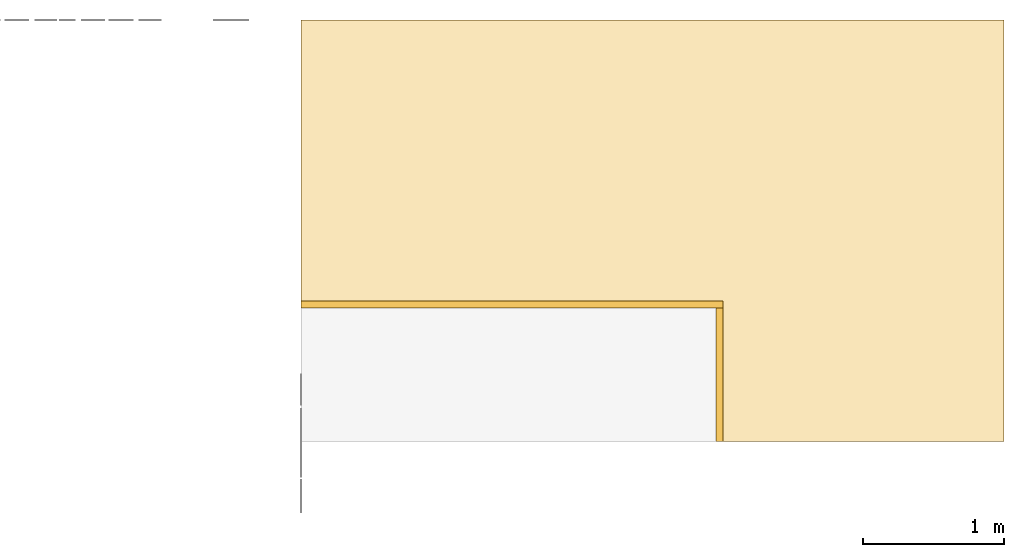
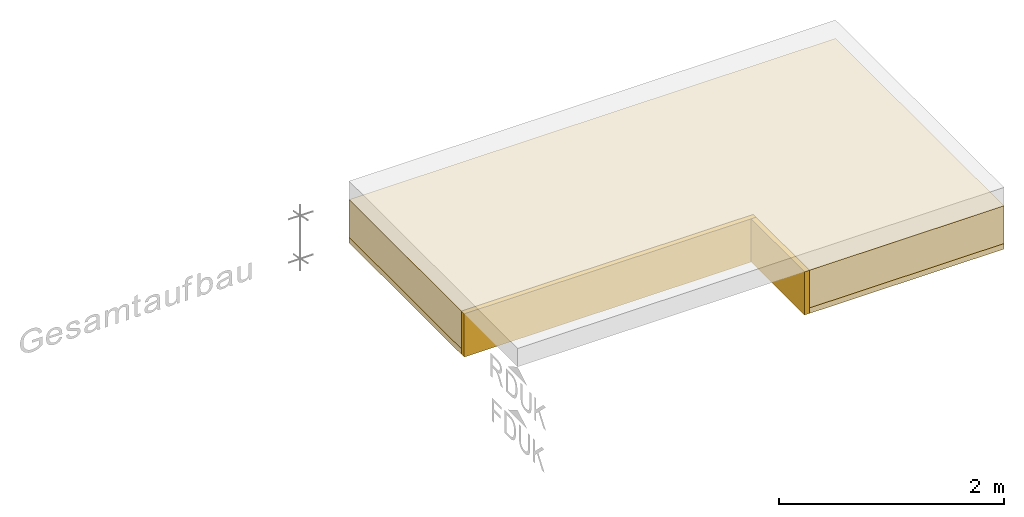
# One storey, part 2 of 3: 4 coverings, 1 element without a shape of its own.
"""IFC4 building model written with IfcOpenShell, lengths in metres."""

import ifcopenshell
import ifcopenshell.guid

model = None  # the IFC model being written
_history = None  # IfcOwnerHistory: only IFC2X3 demands one
_inside = {}  # id of a spatial element -> (the spatial element, [elements in it])
_under = {}  # id of a project, library or spatial element -> (it, [spatial elements below it])
_declared = {}  # id of a project -> (the project, [libraries it declares])
_typed = {}  # id of a type object -> (the type object, [elements of that type])
_made_of = {}  # id of a material, layer set ... -> (it, [elements and type objects made of it])


def new_model(schema):
    """Start an empty IFC model of exactly this schema.

    Asked for "IFC4X3", IfcOpenShell would pick the latest addendum, in which some entities
    have other attributes; the version numbers below select the first issue.
    IFC2X3 requires an IfcOwnerHistory on every rooted entity: one is made here for all.
    """
    global model, _history
    if schema == "IFC4X3":
        model = ifcopenshell.file(schema_version=(4, 3, 0, 0))
    else:
        model = ifcopenshell.file(schema=schema)
    _inside.clear()
    _under.clear()
    _declared.clear()
    _typed.clear()
    _made_of.clear()
    _history = None
    if model.schema == "IFC2X3":
        org = make("IfcOrganization", Name="unknown")
        user = make(
            "IfcPersonAndOrganization",
            ThePerson=make("IfcPerson", FamilyName="unknown"),
            TheOrganization=org,
        )
        app = make(
            "IfcApplication",
            ApplicationDeveloper=org,
            Version="unknown",
            ApplicationFullName="unknown",
            ApplicationIdentifier="unknown",
        )
        _history = make(
            "IfcOwnerHistory",
            OwningUser=user,
            OwningApplication=app,
            ChangeAction="ADDED",
            CreationDate=0,
        )
    return model


def make(cls, **values):
    """One entity of the class cls with the attributes given. An attribute that is None is left unset."""
    return model.create_entity(
        cls, **{name: value for name, value in values.items() if value is not None}
    )


def entity(cls, *values):
    """Any entity or typed value of the class cls, its attributes in the order of the schema. None: left unset."""
    e = model.create_entity(cls)
    for i, value in enumerate(values):
        if value is not None:
            e[i] = value
    return e


def rooted(cls, **values):
    """An entity with a GlobalId (a new one), such as an element, a storey or a relation."""
    return make(cls, GlobalId=ifcopenshell.guid.new(), OwnerHistory=_history, **values)


def si_unit(unit_type, name, prefix=None):
    """IfcSIUnit, for example si_unit("LENGTHUNIT", "METRE", prefix="MILLI")."""
    return make("IfcSIUnit", UnitType=unit_type, Prefix=prefix, Name=name)


def converted_unit(unit_type, name, factor, base, dimensions=None, offset=None):
    """IfcConversionBasedUnit, such as the inch: factor (a typed value) times the base unit."""
    return make(
        "IfcConversionBasedUnit"
        if offset is None
        else "IfcConversionBasedUnitWithOffset",
        ConversionOffset=offset,
        Dimensions=None
        if dimensions is None
        else entity("IfcDimensionalExponents", *dimensions),
        UnitType=unit_type,
        Name=name,
        ConversionFactor=make(
            "IfcMeasureWithUnit", ValueComponent=factor, UnitComponent=base
        ),
    )


def derived_unit(unit_type, elements):
    """IfcDerivedUnit: a product of units, each with its exponent."""
    return make(
        "IfcDerivedUnit",
        Elements=[
            make("IfcDerivedUnitElement", Unit=unit, Exponent=power)
            for unit, power in elements
        ],
        UnitType=unit_type,
    )


def assignment(units):
    """IfcUnitAssignment: the units of a project."""
    return None if units is None else make("IfcUnitAssignment", Units=units)


def point(xyz):
    """IfcCartesianPoint."""
    return None if xyz is None else make("IfcCartesianPoint", Coordinates=xyz)


def direction(xyz):
    """IfcDirection."""
    return None if xyz is None else make("IfcDirection", DirectionRatios=xyz)


def frame(location, z_axis=None, x_axis=None):
    """IfcAxis2Placement3D, a coordinate frame: its origin and axes. An axis left out is left unset."""
    return make(
        "IfcAxis2Placement3D",
        Location=point(location),
        Axis=direction(z_axis),
        RefDirection=direction(x_axis),
    )


def origin():
    """The frame at (0, 0, 0) with its axes left unset."""
    return frame((0.0, 0.0, 0.0))


def place(relative_to, where):
    """IfcLocalPlacement: puts the frame where relative to a parent placement (None: the world)."""
    return make(
        "IfcLocalPlacement", PlacementRelTo=relative_to, RelativePlacement=where
    )


def context(
    kind, dimensions, precision=None, world=None, true_north=None, identifier=None
):
    """IfcGeometricRepresentationContext, for example the 3D "Model" context."""
    return make(
        "IfcGeometricRepresentationContext",
        ContextIdentifier=identifier,
        ContextType=kind,
        CoordinateSpaceDimension=dimensions,
        Precision=precision,
        WorldCoordinateSystem=world,
        TrueNorth=true_north,
    )


def subcontext(parent, identifier, kind, view, scale=None):
    """IfcGeometricRepresentationSubContext, for example "Body" below "Model"."""
    return make(
        "IfcGeometricRepresentationSubContext",
        ContextIdentifier=identifier,
        ContextType=kind,
        ParentContext=parent,
        TargetScale=scale,
        TargetView=view,
    )


def project(units=None, contexts=None):
    """IfcProject with its units and contexts."""
    return rooted(
        "IfcProject",
        Name="project",
        RepresentationContexts=contexts,
        UnitsInContext=assignment(units),
    )


def spatial(cls, under=None, at=None, **own):
    """A site, building, storey or space (cls), placed at a placement, below another one or the project."""
    s = rooted(cls, ObjectPlacement=at, **own)
    if under is not None:
        _under.setdefault(under.id(), (under, []))[1].append(s)
    return s


def faces_of(points, faces, orient=None, outer=None):
    """IfcFace entities. A face is a list of loops; a loop is a list of indices into points, from 0.

    orient and outer hold one flag for each loop. By default every Orientation is true, the
    first loop of a face is its IfcFaceOuterBound and the others are IfcFaceBound.
    """
    made = []
    for i, loops in enumerate(faces):
        bounds = []
        for j, loop in enumerate(loops):
            is_outer = j == 0 if outer is None else outer[i][j]
            bounds.append(
                make(
                    "IfcFaceOuterBound" if is_outer else "IfcFaceBound",
                    Bound=make("IfcPolyLoop", Polygon=[points[k] for k in loop]),
                    Orientation=True if orient is None else orient[i][j],
                )
            )
        made.append(make("IfcFace", Bounds=bounds))
    return made


def faceted_brep(points, faces, orient=None, outer=None, voids=None):
    """IfcFacetedBrep: a solid bounded by flat faces; with voids (closed shells), ...WithVoids."""
    shared = [point(p) for p in points]
    hull = make("IfcClosedShell", CfsFaces=faces_of(shared, faces, orient, outer))
    if voids is None:
        return make("IfcFacetedBrep", Outer=hull)
    return make(
        "IfcFacetedBrepWithVoids",
        Outer=hull,
        Voids=[
            make(cls, CfsFaces=faces_of(shared, fs, o, b)) for cls, fs, o, b in voids
        ],
    )


def shape(context_of_items, identifier, shape_type, items):
    """IfcShapeRepresentation: the items that make up one representation, for example the "Body"."""
    return make(
        "IfcShapeRepresentation",
        ContextOfItems=context_of_items,
        RepresentationIdentifier=identifier,
        RepresentationType=shape_type,
        Items=items,
    )


def made_of(thing, what):
    """Note that an element or type object is made of a material, layer set ...; save() writes the relation."""
    if what is not None:
        _made_of.setdefault(what.id(), (what, []))[1].append(thing)
    return thing


def element(
    cls,
    number,
    at=None,
    inside=None,
    cuts=None,
    type_object=None,
    material=None,
    context=None,
    identifier="Body",
    shape_type=None,
    held_by="IfcProductDefinitionShape",
    body=None,
    shapes=None,
    **own,
):
    """One element of the class cls, such as IfcWall. Its Tag is "e" and its number.

    at: its placement. inside: the storey or other place that contains it. cuts: it is an
    opening in that element (IfcRelVoidsElement). A single representation is given by context,
    identifier, shape_type and body (its items); several are given by shapes. held_by: the class
    of the entity that holds the representations. save() writes the other relations.
    """
    e = rooted(cls, Tag="e%d" % number, ObjectPlacement=at, **own)
    if body is not None:
        shapes = [shape(context, identifier, shape_type, body)]
    if shapes is not None:
        e.Representation = make(held_by, Representations=shapes)
    if inside is not None:
        _inside.setdefault(inside.id(), (inside, []))[1].append(e)
    if cuts is not None:
        rooted(
            "IfcRelVoidsElement", RelatingBuildingElement=cuts, RelatedOpeningElement=e
        )
    if type_object is not None:
        _typed.setdefault(type_object.id(), (type_object, []))[1].append(e)
    return made_of(e, material)


def aggregate(whole, parts):
    """IfcRelAggregates: a whole, such as a stair, and the parts it consists of."""
    return rooted("IfcRelAggregates", RelatingObject=whole, RelatedObjects=parts)


def save(model, path):
    """Write the relations noted so far, then the file.

    IfcRelAggregates (storeys below a building ...), IfcRelContainedInSpatialStructure (elements
    in a storey), IfcRelDefinesByType, IfcRelAssociatesMaterial and IfcRelDeclares: one each for
    every whole, place, type object, material and project.
    """
    for whole, parts in _under.values():
        aggregate(whole, parts)
    for where, things in _inside.values():
        rooted(
            "IfcRelContainedInSpatialStructure",
            RelatedElements=things,
            RelatingStructure=where,
        )
    for kind, things in _typed.values():
        rooted("IfcRelDefinesByType", RelatedObjects=things, RelatingType=kind)
    for what, things in _made_of.values():
        rooted("IfcRelAssociatesMaterial", RelatedObjects=things, RelatingMaterial=what)
    for by, libraries in _declared.values():
        rooted("IfcRelDeclares", RelatingContext=by, RelatedDefinitions=libraries)
    model.write(path)


model = new_model("IFC4")

# Units and contexts
model_context = context("Model", 3, precision=1e-05, world=origin())
body_context = subcontext(model_context, "Body", "Model", "MODEL_VIEW")
ifc_project = project(units=[si_unit("LENGTHUNIT", "METRE"), si_unit("AREAUNIT", "SQUARE_METRE"), si_unit("VOLUMEUNIT", "CUBIC_METRE"), si_unit("MASSUNIT", "GRAM", prefix="KILO"), converted_unit("PLANEANGLEUNIT", "DEGREE", entity("IfcPlaneAngleMeasure", 0.0174532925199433), si_unit("PLANEANGLEUNIT", "RADIAN"), dimensions=[0, 0, 0, 0, 0, 0, 0]), derived_unit("THERMALTRANSMITTANCEUNIT", [(si_unit("POWERUNIT", "WATT"), 1), (si_unit("THERMODYNAMICTEMPERATUREUNIT", "KELVIN"), -1), (si_unit("LENGTHUNIT", "METRE"), -2)]), derived_unit("VOLUMETRICFLOWRATEUNIT", [(si_unit("LENGTHUNIT", "METRE"), 3), (converted_unit("TIMEUNIT", "hour", entity("IfcTimeMeasure", 3600.0), si_unit("TIMEUNIT", "SECOND"), dimensions=[0, 0, 1, 0, 0, 0, 0]), -1), (si_unit("LENGTHUNIT", "METRE"), -1)])], contexts=[model_context])

# Site, building, storey
site_placement = place(None, origin())
site = spatial("IfcSite", under=ifc_project, at=site_placement, Name="Liegenschaft", CompositionType="ELEMENT")
building_placement = place(site_placement, origin())
building = spatial("IfcBuilding", under=site, at=building_placement, Name="Gebäude", CompositionType="ELEMENT")
storey_placement = place(building_placement, origin())
storey = spatial("IfcBuildingStorey", under=building, at=storey_placement, Name="Geschoss 01", CompositionType="ELEMENT", Elevation=0.0)

# Assembly, coverings
assembly_placement = place(storey_placement, origin())
assembly = element("IfcElementAssembly", 1, at=assembly_placement, inside=storey, PredefinedType="NOTDEFINED")
covering_1_placement = place(assembly_placement, frame((236.15, 0.0, 2.03)))
covering_1 = element("IfcCovering", 2, at=covering_1_placement, PredefinedType="NOTDEFINED", context=body_context, shape_type="Brep", body=[
    faceted_brep([(3.0, 0.0, 0.06), (3.0, 0.0, 0.0), (3.0, 1.0, 0.0), (3.0, 1.0, 0.06), (0.0, 1.0, 0.0), (0.0, 1.0, 0.06), (0.0, 3.0, 0.0), (0.0, 3.0, 0.06), (5.0, 3.0, 0.0), (5.0, 3.0, 0.06), (5.0, 0.0, 0.0), (5.0, 0.0, 0.06)], [[[0, 1, 2, 3]], [[3, 2, 4, 5]], [[4, 6, 7, 5]], [[6, 8, 9, 7]], [[8, 10, 11, 9]], [[11, 10, 1, 0]], [[5, 7, 9, 11, 0, 3]], [[2, 1, 10, 8, 6, 4]]], orient=[[False], [False], [False], [False], [False], [False], [False], [False]]),
])
covering_2_placement = place(assembly_placement, frame((236.15, 0.0, 2.09)))
covering_2 = element("IfcCovering", 3, at=covering_2_placement, PredefinedType="NOTDEFINED", context=body_context, shape_type="Brep", body=[
    faceted_brep([(3.0, 0.0, 0.41), (3.0, 0.0, 0.0), (3.0, 1.0, 0.0), (3.0, 1.0, 0.41), (0.0, 1.0, 0.0), (0.0, 1.0, 0.41), (0.0, 3.0, 0.0), (0.0, 3.0, 0.41), (5.0, 3.0, 0.0), (5.0, 3.0, 0.41), (5.0, 0.0, 0.0), (5.0, 0.0, 0.41)], [[[0, 1, 2, 3]], [[3, 2, 4, 5]], [[6, 7, 5, 4]], [[6, 8, 9, 7]], [[8, 10, 11, 9]], [[11, 10, 1, 0]], [[5, 7, 9, 11, 0, 3]], [[2, 1, 10, 8, 6, 4]]], orient=[[False], [False], [False], [False], [False], [False], [False], [False]]),
])
covering_3_placement = place(assembly_placement, frame((236.15, 0.95, 2.03)))
covering_3 = element("IfcCovering", 4, at=covering_3_placement, PredefinedType="NOTDEFINED", context=body_context, shape_type="Brep", body=[
    faceted_brep([(0.0, 0.05, 0.47), (3.0, 0.05, 0.47), (3.0, 0.0, 0.47), (0.0, 0.0, 0.47), (3.0, 0.05, 0.0), (0.0, 0.05, 0.0), (0.0, 0.0, 0.0), (3.0, 0.0, 0.0)], [[[0, 1, 2, 3]], [[4, 5, 6, 7]], [[1, 0, 5, 4]], [[2, 1, 4, 7]], [[3, 2, 7, 6]], [[0, 3, 6, 5]]], orient=[[False], [False], [False], [False], [False], [False]]),
])
covering_4_placement = place(assembly_placement, frame((239.1, 0.0, 2.03)))
covering_4 = element("IfcCovering", 5, at=covering_4_placement, PredefinedType="NOTDEFINED", context=body_context, shape_type="Brep", body=[
    faceted_brep([(0.05, 0.0, 0.47), (0.0, 0.0, 0.47), (0.0, 0.95, 0.47), (0.05, 0.95, 0.47), (0.05, 0.95, 0.0), (0.0, 0.95, 0.0), (0.0, 0.0, 0.0), (0.05, 0.0, 0.0)], [[[0, 1, 2, 3]], [[4, 5, 6, 7]], [[3, 4, 7, 0]], [[2, 5, 4, 3]], [[1, 6, 5, 2]], [[0, 7, 6, 1]]], orient=[[False], [False], [False], [False], [False], [False]]),
])
aggregate(assembly, [covering_1, covering_2, covering_3, covering_4])

save(model, "model.ifc")
